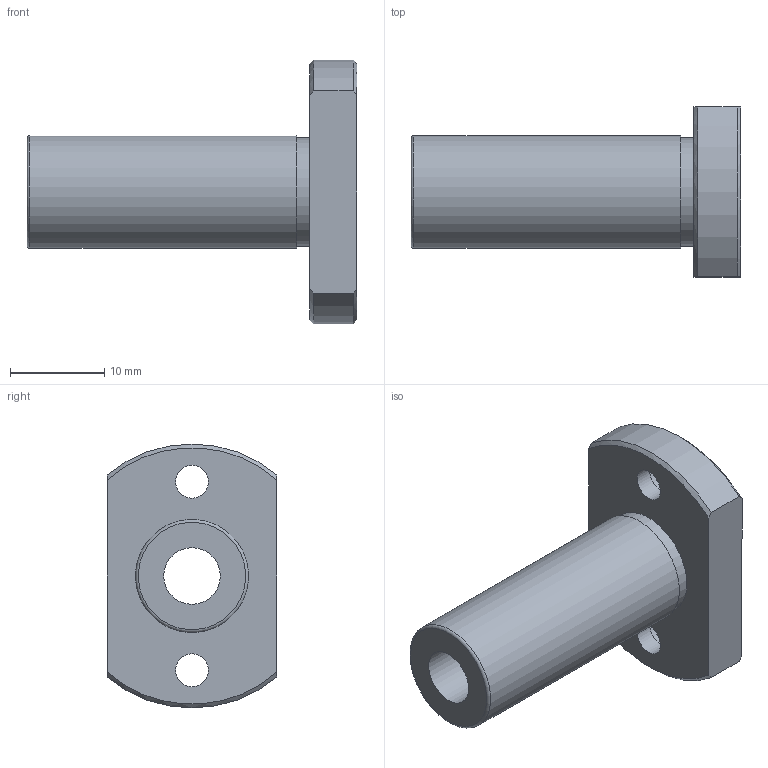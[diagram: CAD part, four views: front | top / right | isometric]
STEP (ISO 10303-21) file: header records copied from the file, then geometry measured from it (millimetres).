
FILE_DESCRIPTION(('STEP AP203'),'1');
FILE_NAME('//192.168.1.1/share/s-4 技術開発/s-4-4_CAD/s-4-4-3_見直し済み/002 修正済み/NFEO-VL/NFEO-VL_TOP/NFEO-6VLUU.step','2022-03-07T05:15:54',(' '),(' '),'Spatial InterOp 3D',' ',' ');
FILE_SCHEMA(('CONFIG_CONTROL_DESIGN'));
Length unit declared in the file: millimetre
Products named in the file (1): 1
Bounding box: 35 x 18 x 28 mm (x, y, z)
Volume: 4505.2 mm3; surface area: 3190 mm2
Topology: 1 solids, 1 shells, 22 faces, 51 edges, 35 vertices
Faces by surface type: cylinder 9, plane 8, cone 4, torus 1
Full cylindrical faces by diameter (mm): 3.5 x2, 6 x3, 11.5 x1, 12 x1
Entity records: 630 total; most frequent: CARTESIAN_POINT 117, DIRECTION 100, ORIENTED_EDGE 78, AXIS2_PLACEMENT_3D 46, EDGE_LOOP 40, EDGE_CURVE 39, VERTEX_POINT 31, FACE_OUTER_BOUND 30
